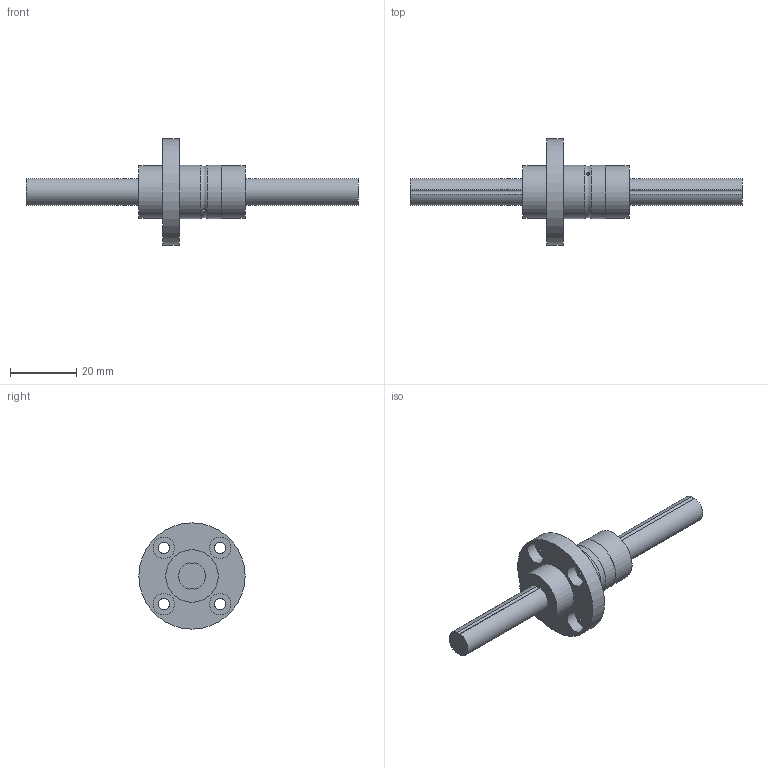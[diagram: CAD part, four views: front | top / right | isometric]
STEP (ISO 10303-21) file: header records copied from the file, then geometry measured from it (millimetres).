
FILE_DESCRIPTION((''),'2;1');
FILE_NAME('C:\Documents and Settings\土屋\My Documents\土屋移動用フォルダ\製品 (図面)\カタログ用3D\ボールスプライン\BSPF\BSPF8.stp','2015-02-23T13:30:30',('y'),(''),'Autodesk Inventor 11','Autodesk Inventor 11','');
FILE_SCHEMA(('AUTOMOTIVE_DESIGN { 1 0 10303 214 1 1 1 1 }'));
Length unit declared in the file: millimetre
Products named in the file (3): BSPF8; BSP8軸; BSPF8ナット
Assembly tree (2 placements, depth 2):
  BSPF8
    BSP8軸
    BSPF8ナット
Bounding box: 100 x 32 x 32 mm (x, y, z)
Volume: 12231.6 mm3; surface area: 7114.3 mm2
Topology: 2 solids, 2 shells, 37 faces, 76 edges, 52 vertices
Faces by surface type: bspline 15, cylinder 14, plane 8
Full cylindrical faces by diameter (mm): 1 x1, 15.8 x2, 16 x2, 32 x1
Entity records: 1233 total; most frequent: CARTESIAN_POINT 466, DIRECTION 150, ORIENTED_EDGE 108, EDGE_LOOP 72, AXIS2_PLACEMENT_3D 71, EDGE_CURVE 54, VERTEX_POINT 46, CIRCLE 44
